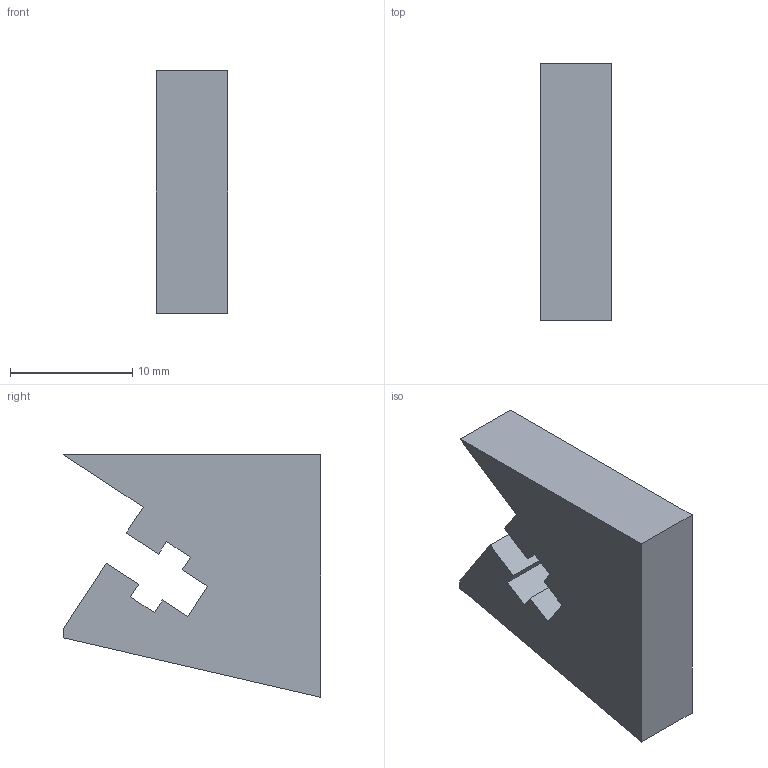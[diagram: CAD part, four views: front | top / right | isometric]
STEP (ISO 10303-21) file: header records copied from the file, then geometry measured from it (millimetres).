
FILE_DESCRIPTION(('FreeCAD Model'),'2;1');
FILE_NAME('/home/ricardo/FreeCAD/myPrinter/FreeCAD/fan_part.step', '2015-01-03T07:04:38',('Author'),(''), 'Open CASCADE STEP processor 6.7','FreeCAD','Unknown');
FILE_SCHEMA(('AUTOMOTIVE_DESIGN_CC2 { 1 2 10303 214 -1 1 5 4 }'));
Length unit declared in the file: millimetre
Products named in the file (1): fan_part_glue
Bounding box: 5.8 x 21.01 x 19.81 mm (x, y, z)
Volume: 1681.3 mm3; surface area: 1180.7 mm2
Topology: 1 solids, 1 shells, 20 faces, 54 edges, 36 vertices
Faces by surface type: plane 20
Entity records: 1341 total; most frequent: CARTESIAN_POINT 219, DIRECTION 204, LINE 162, VECTOR 162, ORIENTED_EDGE 108, PCURVE 108, DEFINITIONAL_REPRESENTATION 108, EDGE_CURVE 54
